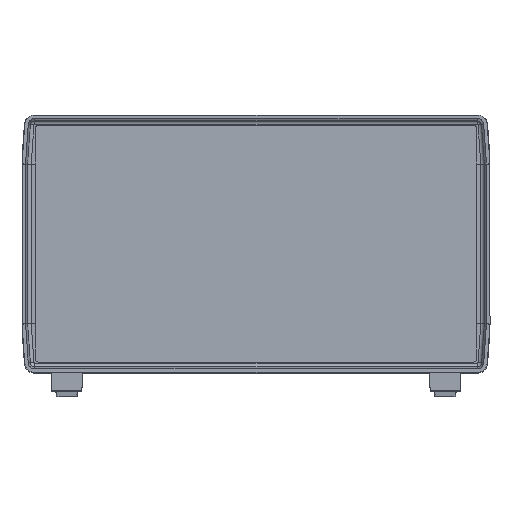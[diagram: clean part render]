
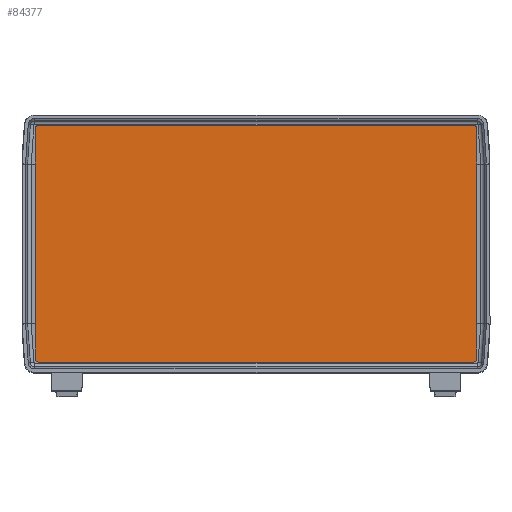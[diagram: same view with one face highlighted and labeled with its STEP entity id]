
A CAD part, top view. The second image highlights one B-rep face of the part: STEP entity #84377.
In plain terms, the highlighted planar face has unit normal (0, 0, 1).
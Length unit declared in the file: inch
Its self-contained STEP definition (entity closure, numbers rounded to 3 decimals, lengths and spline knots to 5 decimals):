
#1969 = DIRECTION ( 'NONE',  ( 1., 0., 0. ) ) ;
#2647 = VECTOR ( 'NONE', #80100, 39.37008 ) ;
#2717 = ORIENTED_EDGE ( 'NONE', *, *, #90456, .T. ) ;
#2879 = EDGE_CURVE ( 'NONE', #92988, #79037, #44612, .T. ) ;
#7474 = VERTEX_POINT ( 'NONE', #24857 ) ;
#10204 = CARTESIAN_POINT ( 'NONE',  ( -4.6875, -2.407, 0.08 ) ) ;
#13741 = EDGE_CURVE ( 'NONE', #19939, #92988, #63332, .T. ) ;
#14641 = CARTESIAN_POINT ( 'NONE',  ( -4.9375, 2.407, 0.08 ) ) ;
#14683 = ORIENTED_EDGE ( 'NONE', *, *, #2879, .T. ) ;
#15444 = VERTEX_POINT ( 'NONE', #23817 ) ;
#16144 = EDGE_CURVE ( 'NONE', #7474, #19939, #55869, .T. ) ;
#17420 = AXIS2_PLACEMENT_3D ( 'NONE', #69900, #22487, #77873 ) ;
#17893 = DIRECTION ( 'NONE',  ( 0., 0., -1. ) ) ;
#18161 = DIRECTION ( 'NONE',  ( 1., 0., 0. ) ) ;
#19939 = VERTEX_POINT ( 'NONE', #44405 ) ;
#19945 = EDGE_CURVE ( 'NONE', #28259, #77839, #72890, .T. ) ;
#20862 = DIRECTION ( 'NONE',  ( 0., -1., 0. ) ) ;
#22487 = DIRECTION ( 'NONE',  ( 0., 0., 1. ) ) ;
#23817 = CARTESIAN_POINT ( 'NONE',  ( 4.9375, -2.407, 0.08 ) ) ;
#24683 = CARTESIAN_POINT ( 'NONE',  ( -4.6875, 2.657, 0.08 ) ) ;
#24857 = CARTESIAN_POINT ( 'NONE',  ( 4.9375, 2.407, 0.08 ) ) ;
#26884 = ORIENTED_EDGE ( 'NONE', *, *, #13741, .T. ) ;
#27442 = AXIS2_PLACEMENT_3D ( 'NONE', #33017, #88405, #40983 ) ;
#28259 = VERTEX_POINT ( 'NONE', #90684 ) ;
#28463 = CARTESIAN_POINT ( 'NONE',  ( -4.6875, -2.657, 0.08 ) ) ;
#31879 = CARTESIAN_POINT ( 'NONE',  ( -4.6875, 2.657, 0.08 ) ) ;
#32079 = ORIENTED_EDGE ( 'NONE', *, *, #19945, .T. ) ;
#33017 = CARTESIAN_POINT ( 'NONE',  ( 4.6875, 2.407, 0.08 ) ) ;
#34724 = EDGE_CURVE ( 'NONE', #15444, #7474, #96387, .T. ) ;
#34988 = FACE_OUTER_BOUND ( 'NONE', #97969, .T. ) ;
#40155 = CIRCLE ( 'NONE', #75750, 0.25 ) ;
#40533 = CARTESIAN_POINT ( 'NONE',  ( -4.9375, -2.407, 0.08 ) ) ;
#40983 = DIRECTION ( 'NONE',  ( -1., 0., 0. ) ) ;
#42730 = CARTESIAN_POINT ( 'NONE',  ( 4.9375, 2.407, 0.08 ) ) ;
#43508 = ORIENTED_EDGE ( 'NONE', *, *, #34724, .T. ) ;
#44405 = CARTESIAN_POINT ( 'NONE',  ( 4.6875, 2.657, 0.08 ) ) ;
#44530 = EDGE_CURVE ( 'NONE', #77839, #15444, #59120, .T. ) ;
#44612 = CIRCLE ( 'NONE', #85542, 0.25 ) ;
#45421 = ORIENTED_EDGE ( 'NONE', *, *, #16144, .T. ) ;
#46735 = ORIENTED_EDGE ( 'NONE', *, *, #44530, .T. ) ;
#48205 = AXIS2_PLACEMENT_3D ( 'NONE', #65339, #17893, #73263 ) ;
#49157 = LINE ( 'NONE', #68287, #51640 ) ;
#49318 = DIRECTION ( 'NONE',  ( 0., 0., 1. ) ) ;
#51640 = VECTOR ( 'NONE', #20862, 39.37008 ) ;
#51810 = VECTOR ( 'NONE', #60341, 39.37008 ) ;
#53325 = VERTEX_POINT ( 'NONE', #40533 ) ;
#54670 = CARTESIAN_POINT ( 'NONE',  ( 4.6875, -2.657, 0.08 ) ) ;
#55869 = CIRCLE ( 'NONE', #27442, 0.25 ) ;
#57286 = EDGE_CURVE ( 'NONE', #79037, #53325, #49157, .T. ) ;
#59120 = CIRCLE ( 'NONE', #17420, 0.25 ) ;
#60341 = DIRECTION ( 'NONE',  ( 1., 0., 0. ) ) ;
#63332 = LINE ( 'NONE', #24683, #2647 ) ;
#64989 = PLANE ( 'NONE',  #48205 ) ;
#65339 = CARTESIAN_POINT ( 'NONE',  ( 4.6875, 2.407, 0.08 ) ) ;
#65608 = DIRECTION ( 'NONE',  ( 0., 0., 1. ) ) ;
#66578 = DIRECTION ( 'NONE',  ( 0., 1., 0. ) ) ;
#68287 = CARTESIAN_POINT ( 'NONE',  ( -4.9375, 2.407, 0.08 ) ) ;
#69900 = CARTESIAN_POINT ( 'NONE',  ( 4.6875, -2.407, 0.08 ) ) ;
#72890 = LINE ( 'NONE', #28463, #51810 ) ;
#73263 = DIRECTION ( 'NONE',  ( -1., 0., 0. ) ) ;
#75249 = VECTOR ( 'NONE', #66578, 39.37008 ) ;
#75750 = AXIS2_PLACEMENT_3D ( 'NONE', #10204, #65608, #18161 ) ;
#77839 = VERTEX_POINT ( 'NONE', #54670 ) ;
#77873 = DIRECTION ( 'NONE',  ( 1., 0., 0. ) ) ;
#79037 = VERTEX_POINT ( 'NONE', #14641 ) ;
#80100 = DIRECTION ( 'NONE',  ( -1., 0., 0. ) ) ;
#84377 = ADVANCED_FACE ( 'NONE', ( #34988 ), #64989, .F. ) ;
#85542 = AXIS2_PLACEMENT_3D ( 'NONE', #96811, #49318, #1969 ) ;
#88405 = DIRECTION ( 'NONE',  ( 0., 0., 1. ) ) ;
#90456 = EDGE_CURVE ( 'NONE', #53325, #28259, #40155, .T. ) ;
#90684 = CARTESIAN_POINT ( 'NONE',  ( -4.6875, -2.657, 0.08 ) ) ;
#92988 = VERTEX_POINT ( 'NONE', #31879 ) ;
#94377 = ORIENTED_EDGE ( 'NONE', *, *, #57286, .T. ) ;
#96387 = LINE ( 'NONE', #42730, #75249 ) ;
#96811 = CARTESIAN_POINT ( 'NONE',  ( -4.6875, 2.407, 0.08 ) ) ;
#97969 = EDGE_LOOP ( 'NONE', ( #45421, #26884, #14683, #94377, #2717, #32079, #46735, #43508 ) ) ;
